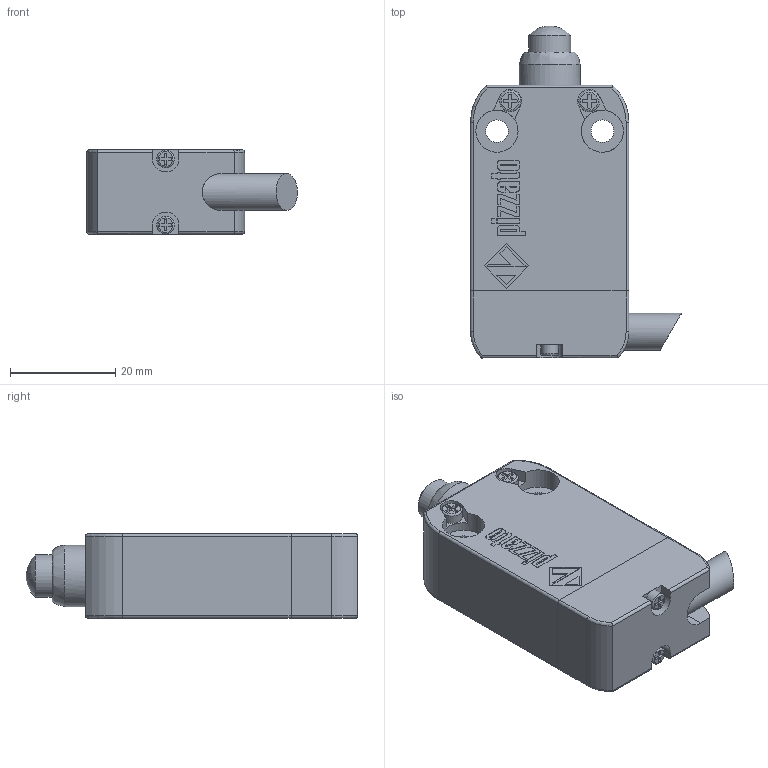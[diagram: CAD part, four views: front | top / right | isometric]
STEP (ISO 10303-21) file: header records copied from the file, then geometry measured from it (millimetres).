
FILE_DESCRIPTION((''),'2;1');
FILE_NAME('E:\WorkFolder\Bibl\3DWeb\kp_lc_lc1b_step.step','2012-04-03T13:51:46',('valdivina'),(''),'Autodesk Inventor 2011','Autodesk Inventor 2011','');
FILE_SCHEMA(('AUTOMOTIVE_DESIGN { 1 0 10303 214 1 1 1 1 }'));
Length unit declared in the file: millimetre
Products named in the file (7): NFB110AB-DN2; Pizzato_custodia_NA-NB-NF_NF; Pizzato_VN_CxxxDNx_Connettore in plastica; Pizzato_Cavo_7; ZF_STEP_VN_AA0AB_A09; Pizzato_Pistoncino_6400-6418_6400-pulsante; Pizzato_Supporto_AB-AC
Assembly tree (6 placements, depth 3):
  NFB110AB-DN2
    Pizzato_custodia_NA-NB-NF_NF
    Pizzato_VN_CxxxDNx_Connettore in plastica
    Pizzato_Cavo_7
    ZF_STEP_VN_AA0AB_A09
      Pizzato_Pistoncino_6400-6418_6400-pulsante
      Pizzato_Supporto_AB-AC
Bounding box: 40 x 62.96 x 16 mm (x, y, z)
Volume: 24007.5 mm3; surface area: 10601.9 mm2
Topology: 5 solids, 5 shells, 329 faces, 839 edges, 550 vertices
Faces by surface type: plane 224, cylinder 91, torus 12, sphere 1, bspline 1
Full cylindrical faces by diameter (mm): 3.35 x2, 4 x2, 4.3 x2, 7 x3, 8 x6, 11.6 x1
Entity records: 10159 total; most frequent: CARTESIAN_POINT 1842, DIRECTION 1686, ORIENTED_EDGE 1620, EDGE_CURVE 810, VECTOR 600, LINE 600, AXIS2_PLACEMENT_3D 543, VERTEX_POINT 542
